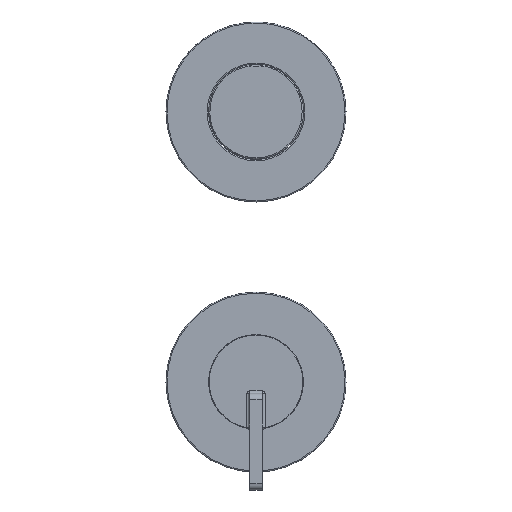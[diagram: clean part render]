
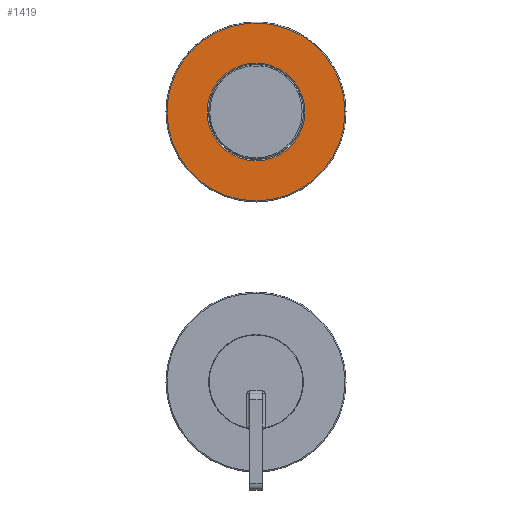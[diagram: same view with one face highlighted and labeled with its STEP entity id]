
A CAD part, top view. The second image highlights one B-rep face of the part: STEP entity #1419.
In plain terms, the highlighted planar face has unit normal (0, 0, 1).
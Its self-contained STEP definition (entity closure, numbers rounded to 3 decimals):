
#60 = CARTESIAN_POINT ( 'NONE',  ( -52.116, -187.979, -249.146 ) ) ;
#106 = EDGE_CURVE ( 'NONE', #3868, #308, #1187, .T. ) ;
#289 = AXIS2_PLACEMENT_3D ( 'NONE', #3980, #2265, #2221 ) ;
#301 = CIRCLE ( 'NONE', #1899, 21.7 ) ;
#308 = VERTEX_POINT ( 'NONE', #3242 ) ;
#354 = DIRECTION ( 'NONE',  ( 1., 0., 0. ) ) ;
#517 = FACE_OUTER_BOUND ( 'NONE', #3385, .T. ) ;
#555 = AXIS2_PLACEMENT_3D ( 'NONE', #3545, #1073, #3557 ) ;
#732 = FACE_BOUND ( 'NONE', #2925, .T. ) ;
#837 = CARTESIAN_POINT ( 'NONE',  ( -34.316, -187.979, -249.146 ) ) ;
#849 = CARTESIAN_POINT ( 'NONE',  ( -73.816, -187.979, -249.146 ) ) ;
#998 = CIRCLE ( 'NONE', #555, 39.5 ) ;
#1036 = EDGE_CURVE ( 'NONE', #2567, #3458, #301, .T. ) ;
#1073 = DIRECTION ( 'NONE',  ( 0., 0., 1. ) ) ;
#1186 = CARTESIAN_POINT ( 'NONE',  ( -73.816, -187.979, -249.146 ) ) ;
#1187 = CIRCLE ( 'NONE', #4049, 39.5 ) ;
#1260 = ORIENTED_EDGE ( 'NONE', *, *, #106, .T. ) ;
#1419 = ADVANCED_FACE ( 'NONE', ( #517, #732 ), #4374, .T. ) ;
#1432 = CARTESIAN_POINT ( 'NONE',  ( -95.516, -187.979, -249.146 ) ) ;
#1446 = CARTESIAN_POINT ( 'NONE',  ( -73.816, -187.979, -249.146 ) ) ;
#1564 = DIRECTION ( 'NONE',  ( 1., 0., 0. ) ) ;
#1691 = CARTESIAN_POINT ( 'NONE',  ( -73.816, -187.979, -249.146 ) ) ;
#1768 = AXIS2_PLACEMENT_3D ( 'NONE', #4548, #3891, #4582 ) ;
#1899 = AXIS2_PLACEMENT_3D ( 'NONE', #1446, #3581, #354 ) ;
#1992 = ORIENTED_EDGE ( 'NONE', *, *, #1036, .T. ) ;
#2057 = DIRECTION ( 'NONE',  ( 1., 0., 0. ) ) ;
#2116 = CIRCLE ( 'NONE', #3419, 39.5 ) ;
#2158 = CARTESIAN_POINT ( 'NONE',  ( -96.895, -155.923, -249.146 ) ) ;
#2221 = DIRECTION ( 'NONE',  ( 1., 0., 0. ) ) ;
#2265 = DIRECTION ( 'NONE',  ( 0., 0., -1. ) ) ;
#2333 = DIRECTION ( 'NONE',  ( 0., 0., 1. ) ) ;
#2349 = ORIENTED_EDGE ( 'NONE', *, *, #3594, .T. ) ;
#2505 = ORIENTED_EDGE ( 'NONE', *, *, #2636, .T. ) ;
#2546 = VERTEX_POINT ( 'NONE', #3606 ) ;
#2567 = VERTEX_POINT ( 'NONE', #60 ) ;
#2605 = CIRCLE ( 'NONE', #289, 21.7 ) ;
#2636 = EDGE_CURVE ( 'NONE', #3458, #2567, #2605, .T. ) ;
#2696 = ORIENTED_EDGE ( 'NONE', *, *, #3837, .T. ) ;
#2759 = CIRCLE ( 'NONE', #1768, 39.5 ) ;
#2925 = EDGE_LOOP ( 'NONE', ( #1992, #2505 ) ) ;
#2972 = EDGE_CURVE ( 'NONE', #2546, #4183, #998, .T. ) ;
#3067 = AXIS2_PLACEMENT_3D ( 'NONE', #849, #2333, #1564 ) ;
#3242 = CARTESIAN_POINT ( 'NONE',  ( -105.872, -164.9, -249.146 ) ) ;
#3385 = EDGE_LOOP ( 'NONE', ( #2349, #3921, #2696, #1260 ) ) ;
#3419 = AXIS2_PLACEMENT_3D ( 'NONE', #1691, #4160, #2057 ) ;
#3458 = VERTEX_POINT ( 'NONE', #1432 ) ;
#3545 = CARTESIAN_POINT ( 'NONE',  ( -73.816, -187.979, -249.146 ) ) ;
#3557 = DIRECTION ( 'NONE',  ( 1., 0., 0. ) ) ;
#3581 = DIRECTION ( 'NONE',  ( 0., 0., -1. ) ) ;
#3594 = EDGE_CURVE ( 'NONE', #308, #2546, #2759, .T. ) ;
#3606 = CARTESIAN_POINT ( 'NONE',  ( -113.316, -187.979, -249.146 ) ) ;
#3692 = DIRECTION ( 'NONE',  ( 0., 0., 1. ) ) ;
#3837 = EDGE_CURVE ( 'NONE', #4183, #3868, #2116, .T. ) ;
#3868 = VERTEX_POINT ( 'NONE', #2158 ) ;
#3891 = DIRECTION ( 'NONE',  ( 0., 0., 1. ) ) ;
#3921 = ORIENTED_EDGE ( 'NONE', *, *, #2972, .T. ) ;
#3980 = CARTESIAN_POINT ( 'NONE',  ( -73.816, -187.979, -249.146 ) ) ;
#4049 = AXIS2_PLACEMENT_3D ( 'NONE', #1186, #3692, #4327 ) ;
#4160 = DIRECTION ( 'NONE',  ( 0., 0., 1. ) ) ;
#4183 = VERTEX_POINT ( 'NONE', #837 ) ;
#4327 = DIRECTION ( 'NONE',  ( 1., 0., 0. ) ) ;
#4374 = PLANE ( 'NONE',  #3067 ) ;
#4548 = CARTESIAN_POINT ( 'NONE',  ( -73.816, -187.979, -249.146 ) ) ;
#4582 = DIRECTION ( 'NONE',  ( 1., 0., 0. ) ) ;
